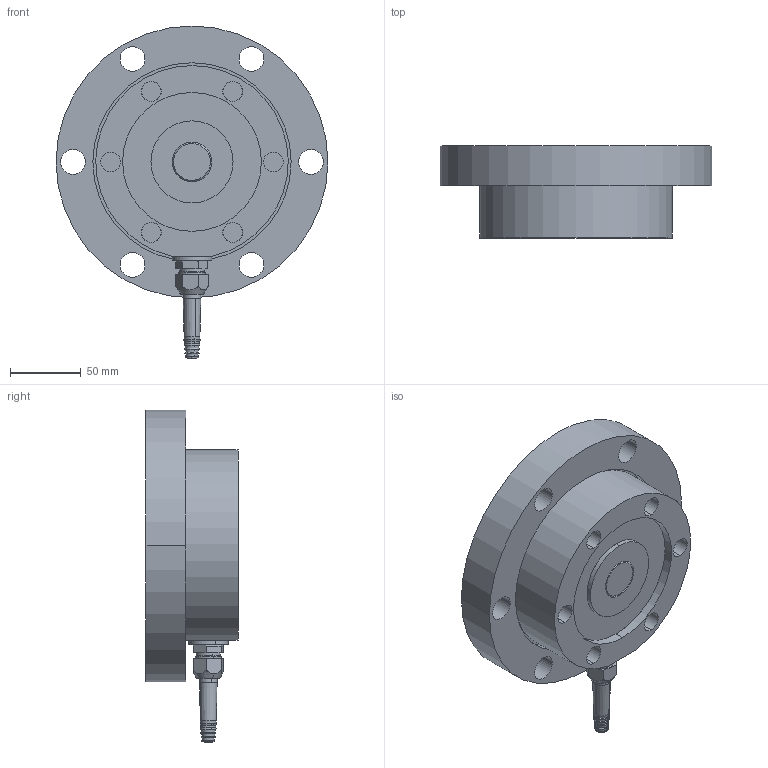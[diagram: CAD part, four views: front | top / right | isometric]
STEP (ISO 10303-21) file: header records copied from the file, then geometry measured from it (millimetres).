
FILE_DESCRIPTION (( 'STEP AP214' ), '1' );
FILE_NAME ('CLC-1 250 kN With Adapter Plate.STEP', '2021-06-17T08:13:38', ( '' ), ( '' ), 'SwSTEP 2.0', 'SolidWorks 2021', '' );
FILE_SCHEMA (( 'AUTOMOTIVE_DESIGN' ));
Length unit declared in the file: millimetre
Products named in the file (7): M26x1.5 - Pg9 - 6369829; 600994r0; 501978r0; 401514r0; CLC-1 250 kN With Adapter Plate; Pg9 - 1009.52 6_2_14; 401588r0
Assembly tree (7 placements, depth 2):
  CLC-1 250 kN With Adapter Plate
    401514r0
    M26x1.5 - Pg9 - 6369829
    Pg9 - 1009.52 6_2_14
    501978r0  x2
    401588r0
    600994r0
Bounding box: 192 x 65 x 234.5 mm (x, y, z)
Volume: 1123307.9 mm3; surface area: 193019.3 mm2
Topology: 6 solids, 11 shells, 282 faces, 654 edges, 408 vertices
Faces by surface type: cylinder 132, cone 65, plane 55, bspline 16, torus 14
Entity records: 13083 total; most frequent: CARTESIAN_POINT 5729, DIRECTION 1382, ORIENTED_EDGE 1264, EDGE_CURVE 634, AXIS2_PLACEMENT_3D 592, VERTEX_POINT 400, EDGE_LOOP 340, CIRCLE 321
